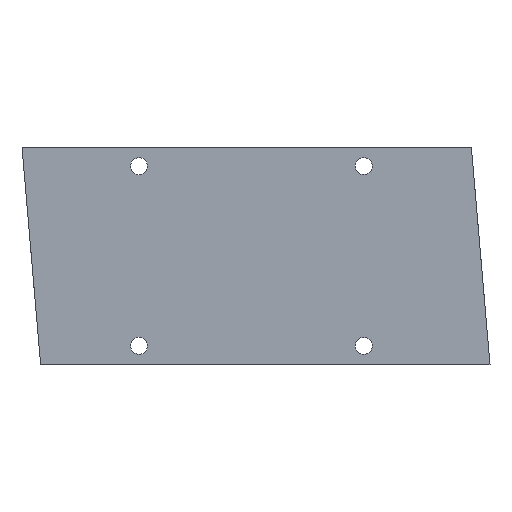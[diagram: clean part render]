
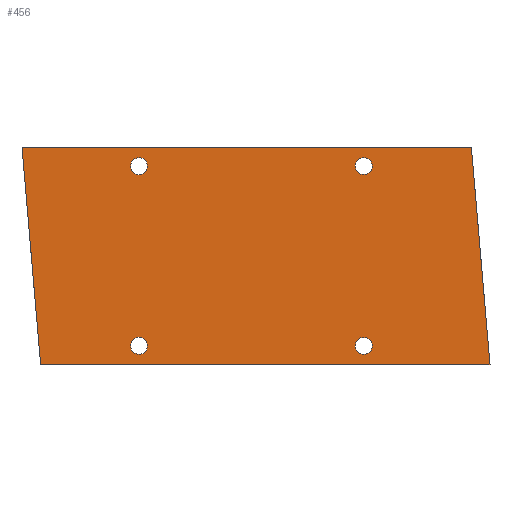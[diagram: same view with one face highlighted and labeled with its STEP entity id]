
A CAD part, front view. The second image highlights one B-rep face of the part: STEP entity #456.
In plain terms, the highlighted planar face has unit normal (0, -1, 0).
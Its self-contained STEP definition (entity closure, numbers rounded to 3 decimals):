
#19 = EDGE_CURVE ( 'NONE', #20, #227, #687, .T. ) ;
#20 = VERTEX_POINT ( 'NONE', #682 ) ;
#41 = VERTEX_POINT ( 'NONE', #778 ) ;
#61 = VERTEX_POINT ( 'NONE', #1015 ) ;
#72 = EDGE_CURVE ( 'NONE', #41, #61, #948, .T. ) ;
#118 = VERTEX_POINT ( 'NONE', #934 ) ;
#123 = VERTEX_POINT ( 'NONE', #1124 ) ;
#132 = VERTEX_POINT ( 'NONE', #1059 ) ;
#143 = EDGE_CURVE ( 'NONE', #144, #118, #1055, .T. ) ;
#144 = VERTEX_POINT ( 'NONE', #1051 ) ;
#185 = EDGE_CURVE ( 'NONE', #132, #123, #1136, .T. ) ;
#227 = VERTEX_POINT ( 'NONE', #1167 ) ;
#338 = ORIENTED_EDGE ( 'NONE', *, *, #339, .T. ) ;
#339 = EDGE_CURVE ( 'NONE', #227, #20, #1476, .T. ) ;
#349 = ORIENTED_EDGE ( 'NONE', *, *, #515, .F. ) ;
#350 = ORIENTED_EDGE ( 'NONE', *, *, #489, .F. ) ;
#351 = EDGE_CURVE ( 'NONE', #61, #41, #1460, .T. ) ;
#352 = EDGE_CURVE ( 'NONE', #123, #132, #1454, .T. ) ;
#359 = ORIENTED_EDGE ( 'NONE', *, *, #352, .T. ) ;
#366 = ORIENTED_EDGE ( 'NONE', *, *, #72, .T. ) ;
#367 = ORIENTED_EDGE ( 'NONE', *, *, #19, .T. ) ;
#381 = ORIENTED_EDGE ( 'NONE', *, *, #477, .F. ) ;
#382 = ORIENTED_EDGE ( 'NONE', *, *, #536, .F. ) ;
#383 = ORIENTED_EDGE ( 'NONE', *, *, #351, .T. ) ;
#414 = ORIENTED_EDGE ( 'NONE', *, *, #415, .T. ) ;
#415 = EDGE_CURVE ( 'NONE', #118, #144, #1612, .T. ) ;
#429 = EDGE_LOOP ( 'NONE', ( #338, #367 ) ) ;
#430 = ORIENTED_EDGE ( 'NONE', *, *, #143, .T. ) ;
#431 = EDGE_LOOP ( 'NONE', ( #349, #350, #381, #382 ) ) ;
#437 = ORIENTED_EDGE ( 'NONE', *, *, #185, .T. ) ;
#438 = EDGE_LOOP ( 'NONE', ( #414, #430 ) ) ;
#456 = ADVANCED_FACE ( 'NONE', ( #1534, #1533, #1532, #1531, #1530 ), #1529, .F. ) ;
#457 = EDGE_LOOP ( 'NONE', ( #383, #366 ) ) ;
#458 = VERTEX_POINT ( 'NONE', #1524 ) ;
#459 = VERTEX_POINT ( 'NONE', #1523 ) ;
#461 = EDGE_LOOP ( 'NONE', ( #359, #437 ) ) ;
#477 = EDGE_CURVE ( 'NONE', #508, #478, #1683, .T. ) ;
#478 = VERTEX_POINT ( 'NONE', #1679 ) ;
#489 = EDGE_CURVE ( 'NONE', #478, #458, #1709, .T. ) ;
#508 = VERTEX_POINT ( 'NONE', #1638 ) ;
#515 = EDGE_CURVE ( 'NONE', #458, #459, #1567, .T. ) ;
#536 = EDGE_CURVE ( 'NONE', #459, #508, #1721, .T. ) ;
#682 = CARTESIAN_POINT ( 'NONE',  ( 91.25, 0., -55.25 ) ) ;
#683 = DIRECTION ( 'NONE',  ( 0., 0., 1. ) ) ;
#684 = DIRECTION ( 'NONE',  ( 0., 1., 0. ) ) ;
#685 = CARTESIAN_POINT ( 'NONE',  ( 91.25, 0., -53. ) ) ;
#686 = AXIS2_PLACEMENT_3D ( 'NONE', #685, #684, #683 ) ;
#687 = CIRCLE ( 'NONE', #686, 2.25 ) ;
#778 = CARTESIAN_POINT ( 'NONE',  ( 31.25, 0., -55.25 ) ) ;
#934 = CARTESIAN_POINT ( 'NONE',  ( 91.25, 0., -2.75 ) ) ;
#945 = DIRECTION ( 'NONE',  ( 0., 1., 0. ) ) ;
#946 = CARTESIAN_POINT ( 'NONE',  ( 31.25, 0., -53. ) ) ;
#947 = AXIS2_PLACEMENT_3D ( 'NONE', #946, #945, #955 ) ;
#948 = CIRCLE ( 'NONE', #947, 2.25 ) ;
#955 = DIRECTION ( 'NONE',  ( 0., 0., 1. ) ) ;
#1015 = CARTESIAN_POINT ( 'NONE',  ( 31.25, 0., -50.75 ) ) ;
#1051 = CARTESIAN_POINT ( 'NONE',  ( 91.25, 0., -7.25 ) ) ;
#1052 = DIRECTION ( 'NONE',  ( 0., 0., 1. ) ) ;
#1053 = DIRECTION ( 'NONE',  ( 0., 1., 0. ) ) ;
#1054 = AXIS2_PLACEMENT_3D ( 'NONE', #1086, #1053, #1052 ) ;
#1055 = CIRCLE ( 'NONE', #1054, 2.25 ) ;
#1059 = CARTESIAN_POINT ( 'NONE',  ( 31.25, 0., -7.25 ) ) ;
#1086 = CARTESIAN_POINT ( 'NONE',  ( 91.25, 0., -5. ) ) ;
#1124 = CARTESIAN_POINT ( 'NONE',  ( 31.25, 0., -2.75 ) ) ;
#1132 = DIRECTION ( 'NONE',  ( 0., 0., 1. ) ) ;
#1133 = DIRECTION ( 'NONE',  ( 0., 1., 0. ) ) ;
#1134 = CARTESIAN_POINT ( 'NONE',  ( 31.25, 0., -5. ) ) ;
#1135 = AXIS2_PLACEMENT_3D ( 'NONE', #1134, #1133, #1132 ) ;
#1136 = CIRCLE ( 'NONE', #1135, 2.25 ) ;
#1167 = CARTESIAN_POINT ( 'NONE',  ( 91.25, 0., -50.75 ) ) ;
#1450 = DIRECTION ( 'NONE',  ( 0., 0., 1. ) ) ;
#1451 = DIRECTION ( 'NONE',  ( 0., 1., 0. ) ) ;
#1452 = CARTESIAN_POINT ( 'NONE',  ( 31.25, 0., -5. ) ) ;
#1453 = AXIS2_PLACEMENT_3D ( 'NONE', #1452, #1451, #1450 ) ;
#1454 = CIRCLE ( 'NONE', #1453, 2.25 ) ;
#1456 = DIRECTION ( 'NONE',  ( 0., 0., 1. ) ) ;
#1457 = DIRECTION ( 'NONE',  ( 0., 1., 0. ) ) ;
#1458 = CARTESIAN_POINT ( 'NONE',  ( 31.25, 0., -53. ) ) ;
#1459 = AXIS2_PLACEMENT_3D ( 'NONE', #1458, #1457, #1456 ) ;
#1460 = CIRCLE ( 'NONE', #1459, 2.25 ) ;
#1472 = DIRECTION ( 'NONE',  ( 0., 0., 1. ) ) ;
#1473 = DIRECTION ( 'NONE',  ( 0., 1., 0. ) ) ;
#1474 = CARTESIAN_POINT ( 'NONE',  ( 91.25, 0., -53. ) ) ;
#1475 = AXIS2_PLACEMENT_3D ( 'NONE', #1474, #1473, #1472 ) ;
#1476 = CIRCLE ( 'NONE', #1475, 2.25 ) ;
#1523 = CARTESIAN_POINT ( 'NONE',  ( 120., 0., 0. ) ) ;
#1524 = CARTESIAN_POINT ( 'NONE',  ( 0., 0., 0. ) ) ;
#1525 = DIRECTION ( 'NONE',  ( 0., 0., 1. ) ) ;
#1526 = DIRECTION ( 'NONE',  ( 0., 1., 0. ) ) ;
#1527 = CARTESIAN_POINT ( 'NONE',  ( 0., 0., 0. ) ) ;
#1528 = AXIS2_PLACEMENT_3D ( 'NONE', #1527, #1526, #1525 ) ;
#1529 = PLANE ( 'NONE',  #1528 ) ;
#1530 = FACE_OUTER_BOUND ( 'NONE', #431, .T. ) ;
#1531 = FACE_BOUND ( 'NONE', #438, .T. ) ;
#1532 = FACE_BOUND ( 'NONE', #461, .T. ) ;
#1533 = FACE_BOUND ( 'NONE', #429, .T. ) ;
#1534 = FACE_BOUND ( 'NONE', #457, .T. ) ;
#1564 = DIRECTION ( 'NONE',  ( 1., 0., 0. ) ) ;
#1565 = VECTOR ( 'NONE', #1564, 1000. ) ;
#1566 = CARTESIAN_POINT ( 'NONE',  ( 0., 0., 0. ) ) ;
#1567 = LINE ( 'NONE', #1566, #1565 ) ;
#1608 = DIRECTION ( 'NONE',  ( 0., 0., 1. ) ) ;
#1609 = DIRECTION ( 'NONE',  ( 0., 1., 0. ) ) ;
#1610 = CARTESIAN_POINT ( 'NONE',  ( 91.25, 0., -5. ) ) ;
#1611 = AXIS2_PLACEMENT_3D ( 'NONE', #1610, #1609, #1608 ) ;
#1612 = CIRCLE ( 'NONE', #1611, 2.25 ) ;
#1638 = CARTESIAN_POINT ( 'NONE',  ( 124.972, 0., -58. ) ) ;
#1679 = CARTESIAN_POINT ( 'NONE',  ( 4.972, 0., -58. ) ) ;
#1680 = DIRECTION ( 'NONE',  ( -1., 0., 0. ) ) ;
#1681 = VECTOR ( 'NONE', #1680, 1000. ) ;
#1682 = CARTESIAN_POINT ( 'NONE',  ( 4.972, 0., -58. ) ) ;
#1683 = LINE ( 'NONE', #1682, #1681 ) ;
#1706 = DIRECTION ( 'NONE',  ( -0.085, 0., 0.996 ) ) ;
#1707 = VECTOR ( 'NONE', #1706, 1000. ) ;
#1708 = CARTESIAN_POINT ( 'NONE',  ( 0., 0., 0. ) ) ;
#1709 = LINE ( 'NONE', #1708, #1707 ) ;
#1718 = DIRECTION ( 'NONE',  ( 0.085, 0., -0.996 ) ) ;
#1719 = VECTOR ( 'NONE', #1718, 1000. ) ;
#1720 = CARTESIAN_POINT ( 'NONE',  ( 124.972, 0., -58. ) ) ;
#1721 = LINE ( 'NONE', #1720, #1719 ) ;
